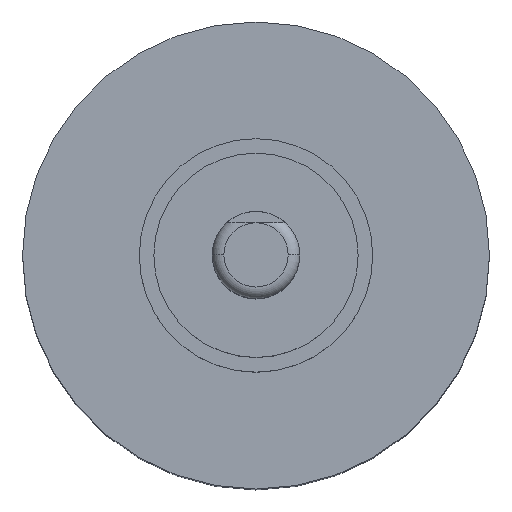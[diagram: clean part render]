
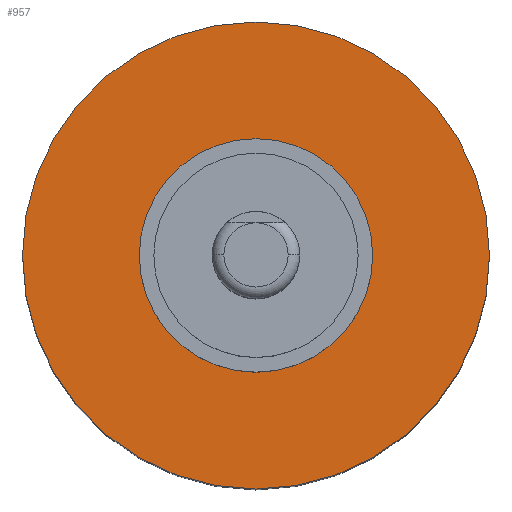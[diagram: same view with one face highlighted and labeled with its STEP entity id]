
A CAD part, top view. The second image highlights one B-rep face of the part: STEP entity #957.
In plain terms, the highlighted planar face has unit normal (0, 0, 1).
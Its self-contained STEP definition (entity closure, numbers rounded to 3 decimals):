
#51 = CARTESIAN_POINT ( 'NONE',  ( 0., -2., -6. ) ) ;
#53 = AXIS2_PLACEMENT_3D ( 'NONE', #672, #423, #128 ) ;
#71 = AXIS2_PLACEMENT_3D ( 'NONE', #249, #153, #92 ) ;
#72 = CIRCLE ( 'NONE', #130, 2. ) ;
#92 = DIRECTION ( 'NONE',  ( 1., 0., 0. ) ) ;
#120 = FACE_OUTER_BOUND ( 'NONE', #577, .T. ) ;
#123 = EDGE_CURVE ( 'NONE', #641, #803, #599, .T. ) ;
#128 = DIRECTION ( 'NONE',  ( 1., 0., 0. ) ) ;
#130 = AXIS2_PLACEMENT_3D ( 'NONE', #368, #897, #973 ) ;
#147 = CIRCLE ( 'NONE', #71, 4. ) ;
#153 = DIRECTION ( 'NONE',  ( 0., 0., 1. ) ) ;
#249 = CARTESIAN_POINT ( 'NONE',  ( 0., 0., -6. ) ) ;
#264 = ORIENTED_EDGE ( 'NONE', *, *, #832, .F. ) ;
#274 = CARTESIAN_POINT ( 'NONE',  ( -2., 0., -6. ) ) ;
#281 = EDGE_LOOP ( 'NONE', ( #404, #264 ) ) ;
#344 = PLANE ( 'NONE',  #793 ) ;
#367 = DIRECTION ( 'NONE',  ( 0., 0., 1. ) ) ;
#368 = CARTESIAN_POINT ( 'NONE',  ( 0., 0., -6. ) ) ;
#404 = ORIENTED_EDGE ( 'NONE', *, *, #725, .F. ) ;
#407 = CARTESIAN_POINT ( 'NONE',  ( 2., 0., -6. ) ) ;
#410 = CARTESIAN_POINT ( 'NONE',  ( 0., 0., -6. ) ) ;
#423 = DIRECTION ( 'NONE',  ( 0., 0., 1. ) ) ;
#427 = FACE_BOUND ( 'NONE', #281, .T. ) ;
#499 = EDGE_CURVE ( 'NONE', #803, #641, #147, .T. ) ;
#532 = AXIS2_PLACEMENT_3D ( 'NONE', #410, #568, #743 ) ;
#568 = DIRECTION ( 'NONE',  ( 0., 0., 1. ) ) ;
#577 = EDGE_LOOP ( 'NONE', ( #794, #615 ) ) ;
#599 = CIRCLE ( 'NONE', #53, 4. ) ;
#615 = ORIENTED_EDGE ( 'NONE', *, *, #123, .T. ) ;
#641 = VERTEX_POINT ( 'NONE', #877 ) ;
#647 = VERTEX_POINT ( 'NONE', #274 ) ;
#672 = CARTESIAN_POINT ( 'NONE',  ( 0., 0., -6. ) ) ;
#679 = CIRCLE ( 'NONE', #532, 2. ) ;
#711 = VERTEX_POINT ( 'NONE', #407 ) ;
#725 = EDGE_CURVE ( 'NONE', #711, #647, #679, .T. ) ;
#743 = DIRECTION ( 'NONE',  ( 1., 0., 0. ) ) ;
#793 = AXIS2_PLACEMENT_3D ( 'NONE', #51, #367, #810 ) ;
#794 = ORIENTED_EDGE ( 'NONE', *, *, #499, .T. ) ;
#803 = VERTEX_POINT ( 'NONE', #843 ) ;
#810 = DIRECTION ( 'NONE',  ( 1., 0., 0. ) ) ;
#832 = EDGE_CURVE ( 'NONE', #647, #711, #72, .T. ) ;
#843 = CARTESIAN_POINT ( 'NONE',  ( 4., 0., -6. ) ) ;
#877 = CARTESIAN_POINT ( 'NONE',  ( -4., 0., -6. ) ) ;
#897 = DIRECTION ( 'NONE',  ( 0., 0., 1. ) ) ;
#957 = ADVANCED_FACE ( 'NONE', ( #120, #427 ), #344, .T. ) ;
#973 = DIRECTION ( 'NONE',  ( 1., 0., 0. ) ) ;
